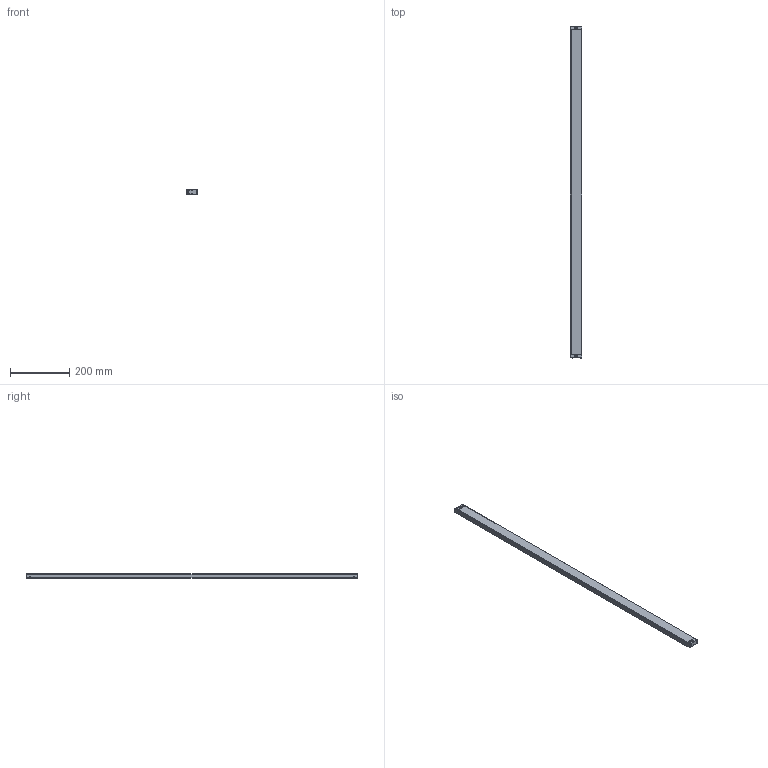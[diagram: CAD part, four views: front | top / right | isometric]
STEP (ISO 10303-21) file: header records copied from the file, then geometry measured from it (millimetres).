
FILE_DESCRIPTION((''),'2;1');
FILE_NAME('EB15--3610_ASM','2021-07-22T11:31:25',('18720616900'),(''),'CREO PARAMETRIC BY PTC INC, 2019010','CREO PARAMETRIC BY PTC INC, 2019010','');
FILE_SCHEMA(('CONFIG_CONTROL_DESIGN'));
Length unit declared in the file: millimetre
Products named in the file (6): EB15-00; EB15-000; EB15-0003; EB15-0004; ST-3-12; EB15--3610_ASM
Assembly tree (12 placements, depth 2):
  EB15--3610_ASM
    EB15-00
    EB15-000
    EB15-0003
    EB15-0004
    ST-3-12  x8
Bounding box: 39.15 x 1125 x 15.8 mm (x, y, z)
Volume: 676260.1 mm3; surface area: 163316.3 mm2
Topology: 12 solids, 12 shells, 827 faces, 2188 edges, 1368 vertices
Faces by surface type: plane 242, bspline 188, cone 176, cylinder 165, torus 40, sphere 16
Entity records: 16044 total; most frequent: CARTESIAN_POINT 7660, ORIENTED_EDGE 1804, DIRECTION 1603, EDGE_CURVE 902, AXIS2_PLACEMENT_3D 577, VERTEX_POINT 563, VECTOR 449, LINE 449
